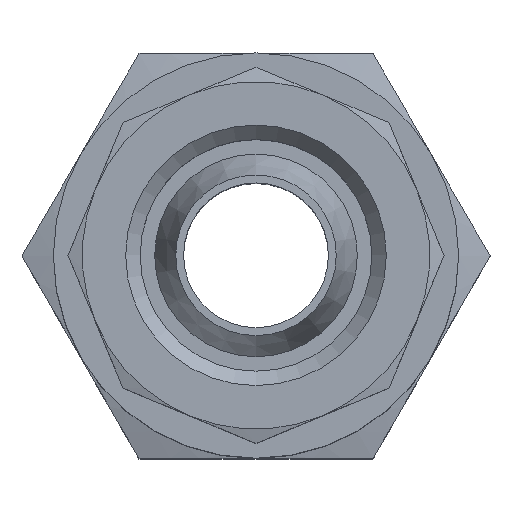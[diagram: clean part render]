
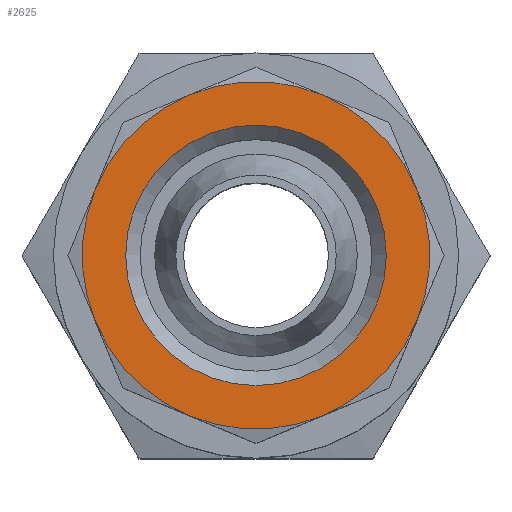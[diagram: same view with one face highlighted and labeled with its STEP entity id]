
A CAD part, top view. The second image highlights one B-rep face of the part: STEP entity #2625.
In plain terms, the highlighted planar face has unit normal (0, 0, 1) as drawn and (0, 1, 0) by its records, which use the part's own axes.
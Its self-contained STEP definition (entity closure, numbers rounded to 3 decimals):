
#1364=ORIENTED_EDGE('',*,*,#1636,.F.);
#1365=ORIENTED_EDGE('',*,*,#1637,.F.);
#1366=ORIENTED_EDGE('',*,*,#1638,.F.);
#1367=ORIENTED_EDGE('',*,*,#1634,.F.);
#1368=ORIENTED_EDGE('',*,*,#1639,.F.);
#1369=ORIENTED_EDGE('',*,*,#1640,.F.);
#1370=ORIENTED_EDGE('',*,*,#1641,.F.);
#1371=ORIENTED_EDGE('',*,*,#1642,.F.);
#1372=ORIENTED_EDGE('',*,*,#1643,.T.);
#1474=CIRCLE('',#2509,6.);
#1475=CIRCLE('',#2512,6.);
#1476=CIRCLE('',#2513,6.);
#1477=CIRCLE('',#2514,6.);
#1478=CIRCLE('',#2515,6.);
#1479=CIRCLE('',#2516,6.);
#1480=CIRCLE('',#2517,6.);
#1481=CIRCLE('',#2518,6.);
#1482=CIRCLE('',#2519,4.5);
#1539=VERTEX_POINT('',#2324);
#1542=VERTEX_POINT('',#2332);
#1543=VERTEX_POINT('',#2336);
#1544=VERTEX_POINT('',#2337);
#1545=VERTEX_POINT('',#2339);
#1546=VERTEX_POINT('',#2342);
#1547=VERTEX_POINT('',#2344);
#1548=VERTEX_POINT('',#2346);
#1549=VERTEX_POINT('',#2349);
#1634=EDGE_CURVE('',#1539,#1542,#1474,.T.);
#1636=EDGE_CURVE('',#1543,#1544,#1475,.T.);
#1637=EDGE_CURVE('',#1545,#1543,#1476,.T.);
#1638=EDGE_CURVE('',#1542,#1545,#1477,.T.);
#1639=EDGE_CURVE('',#1546,#1539,#1478,.T.);
#1640=EDGE_CURVE('',#1547,#1546,#1479,.T.);
#1641=EDGE_CURVE('',#1548,#1547,#1480,.T.);
#1642=EDGE_CURVE('',#1544,#1548,#1481,.T.);
#1643=EDGE_CURVE('',#1549,#1549,#1482,.T.);
#1726=EDGE_LOOP('',(#1364,#1365,#1366,#1367,#1368,#1369,#1370,#1371));
#1727=EDGE_LOOP('',(#1372));
#1814=FACE_BOUND('',#1726,.T.);
#1815=FACE_BOUND('',#1727,.T.);
#2052=DIRECTION('',(0.,-1.,0.));
#2053=DIRECTION('',(0.,0.,6.));
#2056=DIRECTION('',(0.,1.,0.));
#2057=DIRECTION('',(1.,0.,0.));
#2058=DIRECTION('',(0.,-1.,0.));
#2059=DIRECTION('',(0.,0.,6.));
#2060=DIRECTION('',(0.,-1.,0.));
#2061=DIRECTION('',(0.,0.,6.));
#2062=DIRECTION('',(0.,-1.,0.));
#2063=DIRECTION('',(0.,0.,6.));
#2064=DIRECTION('',(0.,-1.,0.));
#2065=DIRECTION('',(0.,0.,6.));
#2066=DIRECTION('',(0.,-1.,0.));
#2067=DIRECTION('',(0.,0.,6.));
#2068=DIRECTION('',(0.,-1.,0.));
#2069=DIRECTION('',(0.,0.,6.));
#2070=DIRECTION('',(0.,-1.,0.));
#2071=DIRECTION('',(0.,0.,6.));
#2072=DIRECTION('',(0.,-1.,0.));
#2073=DIRECTION('',(0.,0.,-4.5));
#2324=CARTESIAN_POINT('',(29.285,26.095,5.543));
#2332=CARTESIAN_POINT('',(24.693,26.095,5.543));
#2333=CARTESIAN_POINT('',(26.989,26.095,0.));
#2335=CARTESIAN_POINT('',(29.285,26.095,5.543));
#2336=CARTESIAN_POINT('',(21.446,26.095,-2.296));
#2337=CARTESIAN_POINT('',(24.693,26.095,-5.543));
#2338=CARTESIAN_POINT('',(26.989,26.095,0.));
#2339=CARTESIAN_POINT('',(21.446,26.095,2.296));
#2340=CARTESIAN_POINT('',(26.989,26.095,0.));
#2341=CARTESIAN_POINT('',(26.989,26.095,0.));
#2342=CARTESIAN_POINT('',(32.532,26.095,2.296));
#2343=CARTESIAN_POINT('',(26.989,26.095,0.));
#2344=CARTESIAN_POINT('',(32.532,26.095,-2.296));
#2345=CARTESIAN_POINT('',(26.989,26.095,0.));
#2346=CARTESIAN_POINT('',(29.285,26.095,-5.543));
#2347=CARTESIAN_POINT('',(26.989,26.095,0.));
#2348=CARTESIAN_POINT('',(26.989,26.095,0.));
#2349=CARTESIAN_POINT('',(26.989,26.095,-4.5));
#2350=CARTESIAN_POINT('',(26.989,26.095,0.));
#2509=AXIS2_PLACEMENT_3D('',#2333,#2052,#2053);
#2511=AXIS2_PLACEMENT_3D('',#2335,#2056,#2057);
#2512=AXIS2_PLACEMENT_3D('',#2338,#2058,#2059);
#2513=AXIS2_PLACEMENT_3D('',#2340,#2060,#2061);
#2514=AXIS2_PLACEMENT_3D('',#2341,#2062,#2063);
#2515=AXIS2_PLACEMENT_3D('',#2343,#2064,#2065);
#2516=AXIS2_PLACEMENT_3D('',#2345,#2066,#2067);
#2517=AXIS2_PLACEMENT_3D('',#2347,#2068,#2069);
#2518=AXIS2_PLACEMENT_3D('',#2348,#2070,#2071);
#2519=AXIS2_PLACEMENT_3D('',#2350,#2072,#2073);
#2577=PLANE('',#2511);
#2625=ADVANCED_FACE('',(#1814,#1815),#2577,.T.);
